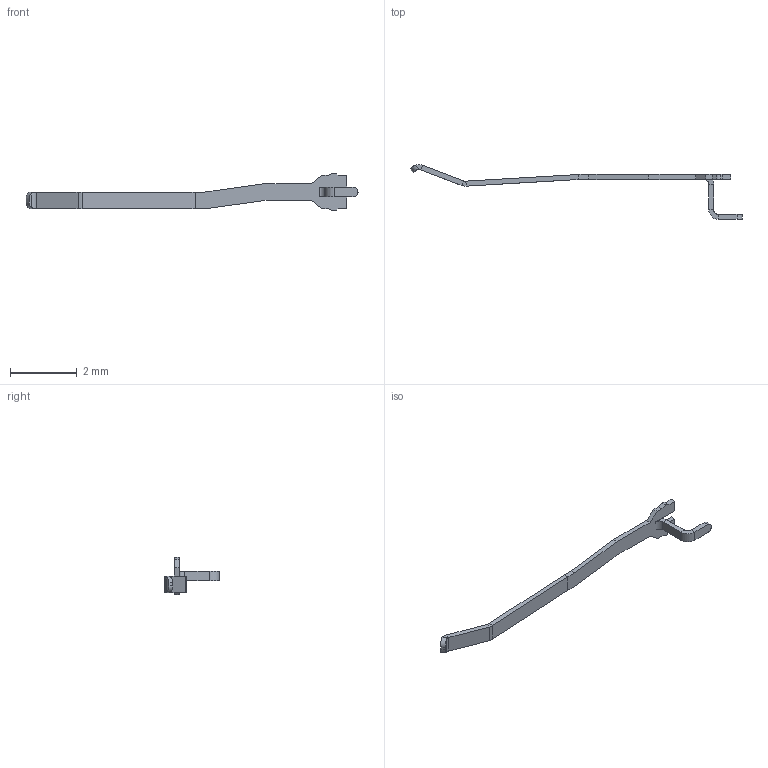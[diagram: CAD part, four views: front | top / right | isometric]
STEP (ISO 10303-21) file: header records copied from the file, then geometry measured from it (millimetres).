
FILE_DESCRIPTION((''),'2;1');
FILE_NAME('T-DSC20-400X00_1_PRT','2008-06-30T',('GRA'),(''),'PRO/ENGINEER BY PARAMETRIC TECHNOLOGY CORPORATION, 2006170','PRO/ENGINEER BY PARAMETRIC TECHNOLOGY CORPORATION, 2006170','');
FILE_SCHEMA(('CONFIG_CONTROL_DESIGN'));
Length unit declared in the file: millimetre
Products named in the file (1): T-DSC20-400X00_1_PRT
Bounding box: 9.96 x 1.65 x 1.14 mm (x, y, z)
Volume: 0.9 mm3; surface area: 15.4 mm2
Topology: 1 solids, 1 shells, 63 faces, 153 edges, 92 vertices
Faces by surface type: plane 50, cylinder 13
Entity records: 1843 total; most frequent: CARTESIAN_POINT 326, ORIENTED_EDGE 306, DIRECTION 303, EDGE_CURVE 153, VECTOR 121, LINE 121, VERTEX_POINT 92, AXIS2_PLACEMENT_3D 91
